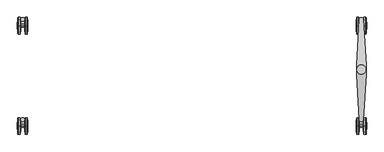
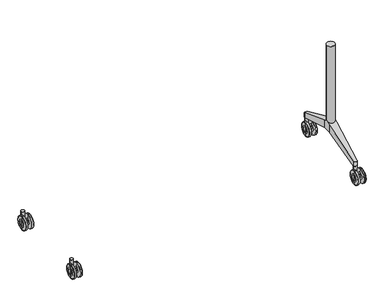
"""IFC4 building model written with IfcOpenShell, lengths in millimetres: furniture geometry."""

from ifc_helpers import new_model, si_unit, point, frame, frame_2d, origin, place, context, project, spatial, polyline, circle_curve, ellipse_curve, trimmed, segment, composite_curve, outline, extrude, source, transform, mapped, element, save
from ifc_brep_helpers import plane_surface, cylinder_surface, revolved_surface, advanced_brep


def furniture_d0fd1eb5(model_context):
    return source(origin(), model_context, "Body", "SolidModel", [
        advanced_brep(
        [(782.7656519, 335.7555331, 26.9613134), (782.7656519, 335.7555331, 40.0000164), (782.7656519, 335.7555331, 53.0387194), (784.897176, 335.7555331, 0.8972162), (783.3247587, 335.7555331, 16.1123581), (783.3247587, 335.7555331, 63.8876748), (784.897176, 335.7555331, 79.1028166), (795.8565603, 335.7555331, 1.43e-05), (785.8918783, 335.7555331, 1.43e-05), (785.8918783, 335.7555331, 80.0000185), (795.8565603, 335.7555331, 80.0000185), (797.7656811, 335.7555331, 20.9999281), (797.7656811, 335.7555331, 59.0001048), (797.7656811, 335.7555331, 32.3463502), (797.7656811, 335.7555331, 47.6536826), (817.6657019, 335.7555331, 32.3463502), (817.6657019, 335.7555331, 47.6536826), (817.6657019, 335.7555331, 20.9999281), (817.6657019, 335.7555331, 59.0001048), (819.5748226, 335.7555331, 1.43e-05), (819.5748226, 335.7555331, 80.0000185), (828.6375243, 335.7555331, 1.43e-05), (828.6375243, 335.7555331, 80.0000185), (832.106818, 335.7555331, 16.1142331), (830.6269288, 335.7555331, 1.7944182), (830.6269288, 335.7555331, 78.2056147), (832.106818, 335.7555331, 63.8857997), (832.665731, 335.7555331, 40.0000164), (832.665731, 335.7555331, 26.9594284), (832.665731, 335.7555331, 53.0406045)],
        [
            (0, 1),
            (1, 2),
            (2, 0, circle_curve(frame((782.7656519, 335.7555331, 40.0000164), z_axis=(-1.0, 0.0, 0.0), x_axis=(0.0, 0.0, 1.0)), 13.038703)),
            (0, 2, circle_curve(frame((782.7656519, 335.7555331, 40.0000164), z_axis=(-1.0, 0.0, 0.0), x_axis=(0.0, 0.0, 1.0)), 13.038703)),
            (3, 4),
            (4, 5, circle_curve(frame((783.3247587, 335.7555331, 40.0000164), z_axis=(1.0, 0.0, 0.0), x_axis=(0.0, 0.0, 1.0)), 23.8876584)),
            (5, 6),
            (6, 3, circle_curve(frame((784.897176, 335.7555331, 40.0000164), z_axis=(-1.0, 0.0, 0.0), x_axis=(0.0, 0.0, 1.0)), 39.1028002)),
            (5, 4, circle_curve(frame((783.3247587, 335.7555331, 40.0000164), z_axis=(1.0, 0.0, 0.0), x_axis=(0.0, 0.0, 1.0)), 23.8876584)),
            (3, 6, circle_curve(frame((784.897176, 335.7555331, 40.0000164), z_axis=(-1.0, 0.0, 0.0), x_axis=(0.0, 0.0, 1.0)), 39.1028002)),
            (7, 8),
            (8, 9, circle_curve(frame((785.8918783, 335.7555331, 40.0000164), z_axis=(1.0, 0.0, 0.0), x_axis=(0.0, 0.0, 1.0)), 40.0000021)),
            (9, 10),
            (10, 7, circle_curve(frame((795.8565603, 335.7555331, 40.0000164), z_axis=(-1.0, 0.0, 0.0), x_axis=(0.0, 0.0, 1.0)), 40.0000021)),
            (9, 8, circle_curve(frame((785.8918783, 335.7555331, 40.0000164), z_axis=(1.0, 0.0, 0.0), x_axis=(0.0, 0.0, 1.0)), 40.0000021)),
            (7, 10, circle_curve(frame((795.8565603, 335.7555331, 40.0000164), z_axis=(-1.0, 0.0, 0.0), x_axis=(0.0, 0.0, 1.0)), 40.0000021)),
            (11, 7),
            (10, 12),
            (12, 11, circle_curve(frame((797.7656811, 335.7555331, 40.0000164), z_axis=(-1.0, 0.0, 0.0), x_axis=(0.0, 0.0, 1.0)), 19.0000883)),
            (11, 12, circle_curve(frame((797.7656811, 335.7555331, 40.0000164), z_axis=(-1.0, 0.0, 0.0), x_axis=(0.0, 0.0, 1.0)), 19.0000883)),
            (13, 11),
            (12, 14),
            (14, 13, circle_curve(frame((797.7656811, 335.7555331, 40.0000164), z_axis=(-1.0, 0.0, 0.0), x_axis=(0.0, 0.0, 1.0)), 7.6536662)),
            (13, 14, circle_curve(frame((797.7656811, 335.7555331, 40.0000164), z_axis=(-1.0, 0.0, 0.0), x_axis=(0.0, 0.0, 1.0)), 7.6536662)),
            (15, 13),
            (14, 16),
            (16, 15, circle_curve(frame((817.6657019, 335.7555331, 40.0000164), z_axis=(-1.0, 0.0, 0.0), x_axis=(0.0, 0.0, 1.0)), 7.6536662)),
            (15, 16, circle_curve(frame((817.6657019, 335.7555331, 40.0000164), z_axis=(-1.0, 0.0, 0.0), x_axis=(0.0, 0.0, 1.0)), 7.6536662)),
            (17, 15),
            (16, 18),
            (18, 17, circle_curve(frame((817.6657019, 335.7555331, 40.0000164), z_axis=(-1.0, 0.0, 0.0), x_axis=(0.0, 0.0, 1.0)), 19.0000883)),
            (17, 18, circle_curve(frame((817.6657019, 335.7555331, 40.0000164), z_axis=(-1.0, 0.0, 0.0), x_axis=(0.0, 0.0, 1.0)), 19.0000883)),
            (19, 17),
            (18, 20),
            (20, 19, circle_curve(frame((819.5748226, 335.7555331, 40.0000164), z_axis=(-1.0, 0.0, 0.0), x_axis=(0.0, 0.0, 1.0)), 40.0000021)),
            (19, 20, circle_curve(frame((819.5748226, 335.7555331, 40.0000164), z_axis=(-1.0, 0.0, 0.0), x_axis=(0.0, 0.0, 1.0)), 40.0000021)),
            (21, 19),
            (20, 22),
            (22, 21, circle_curve(frame((828.6375243, 335.7555331, 40.0000164), z_axis=(-1.0, 0.0, 0.0), x_axis=(0.0, 0.0, 1.0)), 40.0000021)),
            (21, 22, circle_curve(frame((828.6375243, 335.7555331, 40.0000164), z_axis=(-1.0, 0.0, 0.0), x_axis=(0.0, 0.0, 1.0)), 40.0000021)),
            (23, 24),
            (24, 25, circle_curve(frame((830.6269288, 335.7555331, 40.0000164), z_axis=(1.0, 0.0, 0.0), x_axis=(0.0, 0.0, 1.0)), 38.2055982)),
            (25, 26),
            (26, 23, circle_curve(frame((832.106818, 335.7555331, 40.0000164), z_axis=(-1.0, 0.0, 0.0), x_axis=(0.0, 0.0, 1.0)), 23.8857833)),
            (25, 24, circle_curve(frame((830.6269288, 335.7555331, 40.0000164), z_axis=(1.0, 0.0, 0.0), x_axis=(0.0, 0.0, 1.0)), 38.2055982)),
            (23, 26, circle_curve(frame((832.106818, 335.7555331, 40.0000164), z_axis=(-1.0, 0.0, 0.0), x_axis=(0.0, 0.0, 1.0)), 23.8857833)),
            (27, 28),
            (28, 29, circle_curve(frame((832.665731, 335.7555331, 40.0000164), z_axis=(1.0, 0.0, 0.0), x_axis=(0.0, 0.0, 1.0)), 13.0405881)),
            (29, 27),
            (29, 28, circle_curve(frame((832.665731, 335.7555331, 40.0000164), z_axis=(1.0, 0.0, 0.0), x_axis=(0.0, 0.0, 1.0)), 13.0405881)),
            (4, 0, circle_curve(frame((888.3022296, 335.7555331, 26.9613134), z_axis=(0.0, 1.0000000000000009, 0.0), x_axis=(-1.0000000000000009, 0.0, 0.0)), 105.5365777)),
            (2, 5, circle_curve(frame((888.3022296, 335.7555331, 53.0387194), z_axis=(0.0, 1.0000000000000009, 0.0), x_axis=(-1.0000000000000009, 0.0, 0.0)), 105.5365777)),
            (8, 3, circle_curve(frame((785.8918783, 335.7555331, 1.0000143), z_axis=(0.0, 1.0000000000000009, 0.0), x_axis=(-1.0000000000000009, 0.0, 0.0)), 1.0)),
            (6, 9, circle_curve(frame((785.8918783, 335.7555331, 79.0000185), z_axis=(0.0, 1.0000000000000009, 0.0), x_axis=(-1.0000000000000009, 0.0, 0.0)), 1.0)),
            (24, 21, circle_curve(frame((828.6375243, 335.7555331, 2.0000143), z_axis=(0.0, 1.0000000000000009, 0.0), x_axis=(-1.0000000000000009, 0.0, 0.0)), 2.0)),
            (22, 25, circle_curve(frame((828.6375243, 335.7555331, 78.0000185), z_axis=(0.0, 1.0000000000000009, 0.0), x_axis=(-1.0000000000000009, 0.0, 0.0)), 2.0)),
            (28, 23, circle_curve(frame((727.165731, 335.7555331, 26.9594284), z_axis=(0.0, 1.0000000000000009, 0.0), x_axis=(-1.0000000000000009, 0.0, 0.0)), 105.5)),
            (26, 29, circle_curve(frame((727.165731, 335.7555331, 53.0406045), z_axis=(0.0, 1.0000000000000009, 0.0), x_axis=(-1.0000000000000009, 0.0, 0.0)), 105.5)),
        ],
        [
            plane_surface(frame((782.7656519, 335.7555331, 40.0000164), z_axis=(-1.0, 0.0, 0.0), x_axis=(0.0, 0.0, 1.0))),
            revolved_surface(polyline([(783.3247587, 335.7555331, 63.8876748), (784.897176, 335.7555331, 79.1028166)]), (848.4657036, 335.7555331, 40.0000164), (1.0000000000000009, 0.0, 0.0)),
            cylinder_surface(frame((848.4657036, 335.7555331, 40.0000164), z_axis=(1.0000000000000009, 0.0, 0.0), x_axis=(0.0, 0.0, 1.0)), 40.0000021),
            revolved_surface(polyline([(795.8565603, 335.7555331, 80.0000185), (797.7656811, 335.7555331, 59.0001048)]), (848.4657036, 335.7555331, 40.0000164), (1.0000000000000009, 0.0, 0.0)),
            plane_surface(frame((797.7656811, 335.7555331, 40.0000164), z_axis=(1.0, 0.0, 0.0), x_axis=(0.0, 0.0, 1.0))),
            cylinder_surface(frame((848.4657036, 335.7555331, 40.0000164), z_axis=(1.0000000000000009, 0.0, 0.0), x_axis=(0.0, 0.0, 1.0)), 7.6536662),
            plane_surface(frame((817.6657019, 335.7555331, 40.0000164), z_axis=(-1.0, 0.0, 0.0), x_axis=(0.0, 0.0, 1.0))),
            revolved_surface(polyline([(817.6657019, 335.7555331, 59.0001048), (819.5748226, 335.7555331, 80.0000185)]), (848.4657036, 335.7555331, 40.0000164), (1.0000000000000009, 0.0, 0.0)),
            revolved_surface(polyline([(830.6269288, 335.7555331, 78.2056147), (832.106818, 335.7555331, 63.8857997)]), (848.4657036, 335.7555331, 40.0000164), (1.0000000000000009, 0.0, 0.0)),
            plane_surface(frame((832.665731, 335.7555331, 40.0000164), z_axis=(1.0, 0.0, 0.0), x_axis=(0.0, 0.0, 1.0))),
            revolved_surface(trimmed(ellipse_curve(frame((888.3022296, 335.7555331, 53.0387194), z_axis=(0.0, 1.0000000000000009, 0.0), x_axis=(-1.0000000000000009, 0.0, 0.0)), 105.5365777, 105.5365777), [point((782.7656519, 335.7555331, 53.0387194))], [point((783.3247587, 335.7555331, 63.8876748))], True, "CARTESIAN"), (848.4657036, 335.7555331, 40.0000164), (1.0000000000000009, 0.0, 0.0)),
            revolved_surface(trimmed(ellipse_curve(frame((785.8918783, 335.7555331, 79.0000185), z_axis=(0.0, 1.0000000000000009, 0.0), x_axis=(-1.0000000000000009, 0.0, 0.0)), 1.0, 1.0), [point((784.897176, 335.7555331, 79.1028166))], [point((785.8918783, 335.7555331, 80.0000185))], True, "CARTESIAN"), (848.4657036, 335.7555331, 40.0000164), (1.0000000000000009, 0.0, 0.0)),
            revolved_surface(trimmed(ellipse_curve(frame((828.6375243, 335.7555331, 78.0000185), z_axis=(0.0, 1.0000000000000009, 0.0), x_axis=(-1.0000000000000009, 0.0, 0.0)), 2.0, 2.0), [point((828.6375243, 335.7555331, 80.0000185))], [point((830.6269288, 335.7555331, 78.2056147))], True, "CARTESIAN"), (848.4657036, 335.7555331, 40.0000164), (1.0000000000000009, 0.0, 0.0)),
            revolved_surface(trimmed(ellipse_curve(frame((727.165731, 335.7555331, 53.0406045), z_axis=(0.0, 1.0000000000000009, 0.0), x_axis=(-1.0000000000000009, 0.0, 0.0)), 105.5, 105.5), [point((832.106818, 335.7555331, 63.8857997))], [point((832.665731, 335.7555331, 53.0406045))], True, "CARTESIAN"), (848.4657036, 335.7555331, 40.0000164), (1.0000000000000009, 0.0, 0.0)),
        ],
        [
            (0, [[1, 2, 3]]),
            (0, [[-2, -1, 4]]),
            (1, [[5, 6, 7, 8]]),
            (1, [[-7, 9, -5, 10]]),
            (2, [[11, 12, 13, 14]]),
            (2, [[-13, 15, -11, 16]]),
            (3, [[17, -14, 18, 19]]),
            (3, [[-18, -16, -17, 20]]),
            (4, [[21, -19, 22, 23]]),
            (4, [[-22, -20, -21, 24]]),
            (5, [[25, -23, 26, 27]]),
            (5, [[-26, -24, -25, 28]]),
            (6, [[29, -27, 30, 31]]),
            (6, [[-30, -28, -29, 32]]),
            (7, [[33, -31, 34, 35]]),
            (7, [[-34, -32, -33, 36]]),
            (2, [[37, -35, 38, 39]]),
            (2, [[-38, -36, -37, 40]]),
            (8, [[41, 42, 43, 44]]),
            (8, [[-43, 45, -41, 46]]),
            (9, [[47, 48, 49]]),
            (9, [[-49, 50, -47]]),
            (10, [[51, -3, 52, -6]]),
            (10, [[-52, -4, -51, -9]]),
            (11, [[53, -8, 54, -12]]),
            (11, [[-54, -10, -53, -15]]),
            (12, [[55, -39, 56, -42]]),
            (12, [[-56, -40, -55, -45]]),
            (13, [[57, -44, 58, -48]]),
            (13, [[-58, -46, -57, -50]]),
        ],
    ),
        extrude(outline(composite_curve([segment(trimmed(circle_curve(frame_2d((807.8514741, 365.8520513)), 9.5), [point((817.3514741, 365.8520513))], [point((798.3514741, 365.8520513))], False, "CARTESIAN"), True, "CONTINUOUS"), segment(trimmed(circle_curve(frame_2d((807.8514741, 365.8520513)), 9.5), [point((798.3514741, 365.8520513))], [point((817.3514741, 365.8520513))], False, "CARTESIAN"), True, "CONTINUOUS")], self_intersect=False)), frame((0.0, 0.0, 50.0000143), z_axis=(0.0, 0.0, 1.0), x_axis=(1.0, 0.0, 0.0)), (0.0, 0.0, 1.0), 39.0),
        advanced_brep(
        [(782.7656519, -144.048844, 26.9613134), (782.7656519, -144.048844, 40.0000164), (782.7656519, -144.048844, 53.0387194), (784.897176, -144.048844, 0.8972162), (783.3247587, -144.048844, 16.1123581), (783.3247587, -144.048844, 63.8876748), (784.897176, -144.048844, 79.1028166), (795.8565603, -144.048844, 1.43e-05), (785.8918783, -144.048844, 1.43e-05), (785.8918783, -144.048844, 80.0000185), (795.8565603, -144.048844, 80.0000185), (797.7656811, -144.048844, 20.9999281), (797.7656811, -144.048844, 59.0001048), (797.7656811, -144.048844, 32.3463502), (797.7656811, -144.048844, 47.6536826), (817.6657019, -144.048844, 32.3463502), (817.6657019, -144.048844, 47.6536826), (817.6657019, -144.048844, 20.9999281), (817.6657019, -144.048844, 59.0001048), (819.5748226, -144.048844, 1.43e-05), (819.5748226, -144.048844, 80.0000185), (828.6375243, -144.048844, 1.43e-05), (828.6375243, -144.048844, 80.0000185), (832.106818, -144.048844, 16.1142331), (830.6269288, -144.048844, 1.7944182), (830.6269288, -144.048844, 78.2056147), (832.106818, -144.048844, 63.8857997), (832.665731, -144.048844, 40.0000164), (832.665731, -144.048844, 26.9594284), (832.665731, -144.048844, 53.0406045)],
        [
            (0, 1),
            (1, 2),
            (2, 0, circle_curve(frame((782.7656519, -144.048844, 40.0000164), z_axis=(-1.0, 0.0, 0.0), x_axis=(0.0, 0.0, 1.0)), 13.038703)),
            (0, 2, circle_curve(frame((782.7656519, -144.048844, 40.0000164), z_axis=(-1.0, 0.0, 0.0), x_axis=(0.0, 0.0, 1.0)), 13.038703)),
            (3, 4),
            (4, 5, circle_curve(frame((783.3247587, -144.048844, 40.0000164), z_axis=(1.0, 0.0, 0.0), x_axis=(0.0, 0.0, 1.0)), 23.8876584)),
            (5, 6),
            (6, 3, circle_curve(frame((784.897176, -144.048844, 40.0000164), z_axis=(-1.0, 0.0, 0.0), x_axis=(0.0, 0.0, 1.0)), 39.1028002)),
            (5, 4, circle_curve(frame((783.3247587, -144.048844, 40.0000164), z_axis=(1.0, 0.0, 0.0), x_axis=(0.0, 0.0, 1.0)), 23.8876584)),
            (3, 6, circle_curve(frame((784.897176, -144.048844, 40.0000164), z_axis=(-1.0, 0.0, 0.0), x_axis=(0.0, 0.0, 1.0)), 39.1028002)),
            (7, 8),
            (8, 9, circle_curve(frame((785.8918783, -144.048844, 40.0000164), z_axis=(1.0, 0.0, 0.0), x_axis=(0.0, 0.0, 1.0)), 40.0000021)),
            (9, 10),
            (10, 7, circle_curve(frame((795.8565603, -144.048844, 40.0000164), z_axis=(-1.0, 0.0, 0.0), x_axis=(0.0, 0.0, 1.0)), 40.0000021)),
            (9, 8, circle_curve(frame((785.8918783, -144.048844, 40.0000164), z_axis=(1.0, 0.0, 0.0), x_axis=(0.0, 0.0, 1.0)), 40.0000021)),
            (7, 10, circle_curve(frame((795.8565603, -144.048844, 40.0000164), z_axis=(-1.0, 0.0, 0.0), x_axis=(0.0, 0.0, 1.0)), 40.0000021)),
            (11, 7),
            (10, 12),
            (12, 11, circle_curve(frame((797.7656811, -144.048844, 40.0000164), z_axis=(-1.0, 0.0, 0.0), x_axis=(0.0, 0.0, 1.0)), 19.0000883)),
            (11, 12, circle_curve(frame((797.7656811, -144.048844, 40.0000164), z_axis=(-1.0, 0.0, 0.0), x_axis=(0.0, 0.0, 1.0)), 19.0000883)),
            (13, 11),
            (12, 14),
            (14, 13, circle_curve(frame((797.7656811, -144.048844, 40.0000164), z_axis=(-1.0, 0.0, 0.0), x_axis=(0.0, 0.0, 1.0)), 7.6536662)),
            (13, 14, circle_curve(frame((797.7656811, -144.048844, 40.0000164), z_axis=(-1.0, 0.0, 0.0), x_axis=(0.0, 0.0, 1.0)), 7.6536662)),
            (15, 13),
            (14, 16),
            (16, 15, circle_curve(frame((817.6657019, -144.048844, 40.0000164), z_axis=(-1.0, 0.0, 0.0), x_axis=(0.0, 0.0, 1.0)), 7.6536662)),
            (15, 16, circle_curve(frame((817.6657019, -144.048844, 40.0000164), z_axis=(-1.0, 0.0, 0.0), x_axis=(0.0, 0.0, 1.0)), 7.6536662)),
            (17, 15),
            (16, 18),
            (18, 17, circle_curve(frame((817.6657019, -144.048844, 40.0000164), z_axis=(-1.0, 0.0, 0.0), x_axis=(0.0, 0.0, 1.0)), 19.0000883)),
            (17, 18, circle_curve(frame((817.6657019, -144.048844, 40.0000164), z_axis=(-1.0, 0.0, 0.0), x_axis=(0.0, 0.0, 1.0)), 19.0000883)),
            (19, 17),
            (18, 20),
            (20, 19, circle_curve(frame((819.5748226, -144.048844, 40.0000164), z_axis=(-1.0, 0.0, 0.0), x_axis=(0.0, 0.0, 1.0)), 40.0000021)),
            (19, 20, circle_curve(frame((819.5748226, -144.048844, 40.0000164), z_axis=(-1.0, 0.0, 0.0), x_axis=(0.0, 0.0, 1.0)), 40.0000021)),
            (21, 19),
            (20, 22),
            (22, 21, circle_curve(frame((828.6375243, -144.048844, 40.0000164), z_axis=(-1.0, 0.0, 0.0), x_axis=(0.0, 0.0, 1.0)), 40.0000021)),
            (21, 22, circle_curve(frame((828.6375243, -144.048844, 40.0000164), z_axis=(-1.0, 0.0, 0.0), x_axis=(0.0, 0.0, 1.0)), 40.0000021)),
            (23, 24),
            (24, 25, circle_curve(frame((830.6269288, -144.048844, 40.0000164), z_axis=(1.0, 0.0, 0.0), x_axis=(0.0, 0.0, 1.0)), 38.2055982)),
            (25, 26),
            (26, 23, circle_curve(frame((832.106818, -144.048844, 40.0000164), z_axis=(-1.0, 0.0, 0.0), x_axis=(0.0, 0.0, 1.0)), 23.8857833)),
            (25, 24, circle_curve(frame((830.6269288, -144.048844, 40.0000164), z_axis=(1.0, 0.0, 0.0), x_axis=(0.0, 0.0, 1.0)), 38.2055982)),
            (23, 26, circle_curve(frame((832.106818, -144.048844, 40.0000164), z_axis=(-1.0, 0.0, 0.0), x_axis=(0.0, 0.0, 1.0)), 23.8857833)),
            (27, 28),
            (28, 29, circle_curve(frame((832.665731, -144.048844, 40.0000164), z_axis=(1.0, 0.0, 0.0), x_axis=(0.0, 0.0, 1.0)), 13.0405881)),
            (29, 27),
            (29, 28, circle_curve(frame((832.665731, -144.048844, 40.0000164), z_axis=(1.0, 0.0, 0.0), x_axis=(0.0, 0.0, 1.0)), 13.0405881)),
            (4, 0, circle_curve(frame((888.3022296, -144.048844, 26.9613134), z_axis=(0.0, 1.0, 0.0), x_axis=(-1.0, 0.0, 0.0)), 105.5365777)),
            (2, 5, circle_curve(frame((888.3022296, -144.048844, 53.0387194), z_axis=(0.0, 1.0, 0.0), x_axis=(-1.0, 0.0, 0.0)), 105.5365777)),
            (8, 3, circle_curve(frame((785.8918783, -144.048844, 1.0000143), z_axis=(0.0, 1.0, 0.0), x_axis=(-1.0, 0.0, 0.0)), 1.0)),
            (6, 9, circle_curve(frame((785.8918783, -144.048844, 79.0000185), z_axis=(0.0, 1.0, 0.0), x_axis=(-1.0, 0.0, 0.0)), 1.0)),
            (24, 21, circle_curve(frame((828.6375243, -144.048844, 2.0000143), z_axis=(0.0, 1.0, 0.0), x_axis=(-1.0, 0.0, 0.0)), 2.0)),
            (22, 25, circle_curve(frame((828.6375243, -144.048844, 78.0000185), z_axis=(0.0, 1.0, 0.0), x_axis=(-1.0, 0.0, 0.0)), 2.0)),
            (28, 23, circle_curve(frame((727.165731, -144.048844, 26.9594284), z_axis=(0.0, 1.0, 0.0), x_axis=(-1.0, 0.0, 0.0)), 105.5)),
            (26, 29, circle_curve(frame((727.165731, -144.048844, 53.0406045), z_axis=(0.0, 1.0, 0.0), x_axis=(-1.0, 0.0, 0.0)), 105.5)),
        ],
        [
            plane_surface(frame((782.7656519, -144.048844, 40.0000164), z_axis=(-1.0, 0.0, 0.0), x_axis=(0.0, 0.0, 1.0))),
            revolved_surface(polyline([(783.3247587, -144.048844, 63.8876748), (784.897176, -144.048844, 79.1028166)]), (848.4657036, -144.048844, 40.0000164), (1.0, 0.0, 0.0)),
            cylinder_surface(frame((848.4657036, -144.048844, 40.0000164), z_axis=(1.0, 0.0, 0.0), x_axis=(0.0, 0.0, 1.0)), 40.0000021),
            revolved_surface(polyline([(795.8565603, -144.048844, 80.0000185), (797.7656811, -144.048844, 59.0001048)]), (848.4657036, -144.048844, 40.0000164), (1.0, 0.0, 0.0)),
            plane_surface(frame((797.7656811, -144.048844, 40.0000164), z_axis=(1.0, 0.0, 0.0), x_axis=(0.0, 0.0, 1.0))),
            cylinder_surface(frame((848.4657036, -144.048844, 40.0000164), z_axis=(1.0, 0.0, 0.0), x_axis=(0.0, 0.0, 1.0)), 7.6536662),
            plane_surface(frame((817.6657019, -144.048844, 40.0000164), z_axis=(-1.0, 0.0, 0.0), x_axis=(0.0, 0.0, 1.0))),
            revolved_surface(polyline([(817.6657019, -144.048844, 59.0001048), (819.5748226, -144.048844, 80.0000185)]), (848.4657036, -144.048844, 40.0000164), (1.0, 0.0, 0.0)),
            revolved_surface(polyline([(830.6269288, -144.048844, 78.2056147), (832.106818, -144.048844, 63.8857997)]), (848.4657036, -144.048844, 40.0000164), (1.0, 0.0, 0.0)),
            plane_surface(frame((832.665731, -144.048844, 40.0000164), z_axis=(1.0, 0.0, 0.0), x_axis=(0.0, 0.0, 1.0))),
            revolved_surface(trimmed(ellipse_curve(frame((888.3022296, -144.048844, 53.0387194), z_axis=(0.0, 1.0, 0.0), x_axis=(-1.0, 0.0, 0.0)), 105.5365777, 105.5365777), [point((782.7656519, -144.048844, 53.0387194))], [point((783.3247587, -144.048844, 63.8876748))], True, "CARTESIAN"), (848.4657036, -144.048844, 40.0000164), (1.0, 0.0, 0.0)),
            revolved_surface(trimmed(ellipse_curve(frame((785.8918783, -144.048844, 79.0000185), z_axis=(0.0, 1.0, 0.0), x_axis=(-1.0, 0.0, 0.0)), 1.0, 1.0), [point((784.897176, -144.048844, 79.1028166))], [point((785.8918783, -144.048844, 80.0000185))], True, "CARTESIAN"), (848.4657036, -144.048844, 40.0000164), (1.0, 0.0, 0.0)),
            revolved_surface(trimmed(ellipse_curve(frame((828.6375243, -144.048844, 78.0000185), z_axis=(0.0, 1.0, 0.0), x_axis=(-1.0, 0.0, 0.0)), 2.0, 2.0), [point((828.6375243, -144.048844, 80.0000185))], [point((830.6269288, -144.048844, 78.2056147))], True, "CARTESIAN"), (848.4657036, -144.048844, 40.0000164), (1.0, 0.0, 0.0)),
            revolved_surface(trimmed(ellipse_curve(frame((727.165731, -144.048844, 53.0406045), z_axis=(0.0, 1.0, 0.0), x_axis=(-1.0, 0.0, 0.0)), 105.5, 105.5), [point((832.106818, -144.048844, 63.8857997))], [point((832.665731, -144.048844, 53.0406045))], True, "CARTESIAN"), (848.4657036, -144.048844, 40.0000164), (1.0, 0.0, 0.0)),
        ],
        [
            (0, [[1, 2, 3]]),
            (0, [[-2, -1, 4]]),
            (1, [[5, 6, 7, 8]]),
            (1, [[-7, 9, -5, 10]]),
            (2, [[11, 12, 13, 14]]),
            (2, [[-13, 15, -11, 16]]),
            (3, [[17, -14, 18, 19]]),
            (3, [[-18, -16, -17, 20]]),
            (4, [[21, -19, 22, 23]]),
            (4, [[-22, -20, -21, 24]]),
            (5, [[25, -23, 26, 27]]),
            (5, [[-26, -24, -25, 28]]),
            (6, [[29, -27, 30, 31]]),
            (6, [[-30, -28, -29, 32]]),
            (7, [[33, -31, 34, 35]]),
            (7, [[-34, -32, -33, 36]]),
            (2, [[37, -35, 38, 39]]),
            (2, [[-38, -36, -37, 40]]),
            (8, [[41, 42, 43, 44]]),
            (8, [[-43, 45, -41, 46]]),
            (9, [[47, 48, 49]]),
            (9, [[-49, 50, -47]]),
            (10, [[51, -3, 52, -6]]),
            (10, [[-52, -4, -51, -9]]),
            (11, [[53, -8, 54, -12]]),
            (11, [[-54, -10, -53, -15]]),
            (12, [[55, -39, 56, -42]]),
            (12, [[-56, -40, -55, -45]]),
            (13, [[57, -44, 58, -48]]),
            (13, [[-58, -46, -57, -50]]),
        ],
    ),
        extrude(outline(composite_curve([segment(trimmed(circle_curve(frame_2d((807.8514741, -113.9523258)), 9.5), [point((817.3514741, -113.9523258))], [point((798.3514741, -113.9523258))], False, "CARTESIAN"), True, "CONTINUOUS"), segment(trimmed(circle_curve(frame_2d((807.8514741, -113.9523258)), 9.5), [point((798.3514741, -113.9523258))], [point((817.3514741, -113.9523258))], False, "CARTESIAN"), True, "CONTINUOUS")], self_intersect=False)), frame((0.0, 0.0, 50.0000143), z_axis=(0.0, 0.0, 1.0), x_axis=(1.0, 0.0, 0.0)), (0.0, 0.0, 1.0), 39.0),
        advanced_brep(
        [(785.1657234, 148.4511551, 210.360006), (785.1657234, 148.4511551, 165.9000199), (785.1657234, 125.9511544, 165.9000199), (785.1657234, 103.4511538, 165.9000199), (785.1657234, 103.4511538, 210.360006), (785.1657234, 125.9511544, 219.9000124), (830.1657383, 148.4511551, 165.9000199), (830.1657383, 148.4511551, 210.360006), (830.1657383, 125.9511544, 219.9000124), (830.1657383, 103.4511538, 210.360006), (830.1657383, 103.4511538, 165.9000199), (830.1657383, 125.9511544, 165.9000199), (797.627182, -113.0675149, 88.8098467), (817.7042073, -113.0675149, 88.8098467), (797.6821683, -114.0242798, 118.1504308), (817.6492204, -114.0242831, 118.1504294), (817.6492204, -114.0242831, 88.8098467), (797.6821683, -114.0242798, 88.8098467), (797.627182, 364.9698238, 88.8098467), (797.6821683, 365.9265887, 88.8098467), (817.6492204, 365.926592, 88.8098467), (817.7042073, 364.9698238, 88.8098467), (817.6492204, 365.926592, 118.1504294), (797.6821683, 365.9265887, 118.1504308)],
        [
            (0, 1),
            (1, 2),
            (2, 3),
            (3, 4),
            (4, 5),
            (5, 0),
            (6, 7),
            (7, 8),
            (8, 9),
            (9, 10),
            (10, 11),
            (11, 6),
            (2, 11),
            (10, 3),
            (1, 6),
            (12, 3),
            (10, 13),
            (13, 12),
            (14, 15, ellipse_curve(frame((807.6656945, -113.4505156, 118.3937069), z_axis=(0.0, -0.39036065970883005, 0.9206620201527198), x_axis=(0.0, -0.9206620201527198, -0.3903606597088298)), 10.8617492, 10.0)),
            (15, 9),
            (8, 5),
            (4, 14),
            (13, 16),
            (16, 17, circle_curve(frame((807.6656945, -113.4505156, 88.8098467), z_axis=(0.0, 0.0, -1.0), x_axis=(-1.0, 0.0, 0.0)), 10.0)),
            (17, 12),
            (18, 19),
            (19, 20, circle_curve(frame((807.6656945, 365.3528245, 88.8098467), z_axis=(0.0, 0.0, -1.0), x_axis=(-1.0, 0.0, 0.0)), 10.0)),
            (20, 21),
            (21, 18),
            (7, 22),
            (22, 23, ellipse_curve(frame((807.6656945, 365.3528245, 118.3937069), z_axis=(0.0, 0.39036065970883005, 0.9206620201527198), x_axis=(0.0, 0.9206620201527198, -0.3903606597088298)), 10.8617492, 10.0)),
            (23, 0),
            (21, 6),
            (1, 18),
            (23, 19),
            (20, 22),
            (17, 14),
            (16, 15),
        ],
        [
            plane_surface(frame((785.1657234, 148.4511551, 210.360006), z_axis=(-1.0, 0.0, 0.0), x_axis=(0.0, -0.9206619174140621, 0.3903609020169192))),
            plane_surface(frame((830.1657383, 148.4511551, 210.360006), z_axis=(1.0, 0.0, 0.0), x_axis=(0.0, 0.9206619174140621, -0.3903609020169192))),
            plane_surface(frame((785.1657234, 103.4511538, 165.9000199), z_axis=(0.0, 0.0, -1.0), x_axis=(1.0, 0.0, 0.0))),
            plane_surface(frame((785.1657234, 125.9511544, 165.9000199), z_axis=(0.0, 0.0, -1.0), x_axis=(1.0, 0.0, 0.0))),
            plane_surface(frame((785.1657234, -113.0675149, 88.8098467), z_axis=(0.0, 0.33541814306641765, -0.9420693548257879), x_axis=(1.0, 0.0, 0.0))),
            plane_surface(frame((785.1657234, 103.4511538, 210.360006), z_axis=(0.0, -0.39036065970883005, 0.9206620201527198), x_axis=(1.0, 0.0, 0.0))),
            plane_surface(frame((785.1657234, -124.5346363, 88.8098467), z_axis=(0.0, 0.0, -1.0), x_axis=(1.0, 0.0, 0.0))),
            plane_surface(frame((785.1657234, 364.9698238, 88.8098467), z_axis=(0.0, 0.0, -1.0), x_axis=(1.0, 0.0, 0.0))),
            plane_surface(frame((785.1657234, 376.4369452, 113.6940401), z_axis=(0.0, 0.39036065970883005, 0.9206620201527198), x_axis=(1.0, 0.0, 0.0))),
            plane_surface(frame((785.1657234, 148.4511551, 165.9000199), z_axis=(0.0, -0.33541814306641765, -0.9420693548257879), x_axis=(1.0, 0.0, 0.0))),
            plane_surface(frame((797.6821683, 365.9265887, 234.8098558), z_axis=(-0.9983526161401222, 0.0573764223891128, 0.0), x_axis=(0.0, 0.0, -1.0))),
            plane_surface(frame((830.1478455, 148.4511551, 234.8098558), z_axis=(0.9983525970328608, 0.0573767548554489, 0.0), x_axis=(0.0, 0.0, -1.0))),
            cylinder_surface(frame((807.6656945, 365.3528245, 75.8098498), z_axis=(0.0, 0.0, -1.0), x_axis=(-1.0, 0.0, 0.0)), 10.0),
            plane_surface(frame((785.1836161, 103.4511538, 234.8098558), z_axis=(-0.9983526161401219, -0.05737642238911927, 0.0), x_axis=(0.0, 0.0, -1.0))),
            cylinder_surface(frame((807.6656945, -113.4505156, -14.1901527), z_axis=(0.0, 0.0, -1.0), x_axis=(-1.0, 0.0, 0.0)), 10.0),
            plane_surface(frame((817.6492204, -114.0242831, 234.8098558), z_axis=(0.9983525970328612, -0.05737675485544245, 0.0), x_axis=(0.0, 0.0, -1.0))),
        ],
        [
            (0, [[1, 2, 3, 4, 5, 6]]),
            (1, [[7, 8, 9, 10, 11, 12]]),
            (2, [[13, -11, 14, -3]]),
            (3, [[15, -12, -13, -2]]),
            (4, [[16, -14, 17, 18]]),
            (5, [[19, 20, -9, 21, -5, 22]]),
            (6, [[23, 24, 25, -18]]),
            (7, [[26, 27, 28, 29]]),
            (8, [[-6, -21, -8, 30, 31, 32]]),
            (9, [[33, -15, 34, -29]]),
            (10, [[-26, -34, -1, -32, 35]]),
            (11, [[-30, -7, -33, -28, 36]]),
            (12, [[-31, -36, -27, -35]]),
            (13, [[-22, -4, -16, -25, 37]]),
            (14, [[-24, 38, -19, -37]]),
            (15, [[-23, -17, -10, -20, -38]]),
        ],
    ),
        extrude(outline(composite_curve([segment(trimmed(circle_curve(frame_2d((807.6657309, 125.9511544)), 22.0), [point((829.6657309, 125.9511544))], [point((785.6657309, 125.9511544))], False, "CARTESIAN"), True, "CONTINUOUS"), segment(trimmed(circle_curve(frame_2d((807.6657309, 125.9511544)), 22.0), [point((785.6657309, 125.9511544))], [point((829.6657309, 125.9511544))], False, "CARTESIAN"), True, "CONTINUOUS")], self_intersect=False)), frame((0.0, 0.0, 165.9000199), z_axis=(0.0, 0.0, 1.0), x_axis=(1.0, 0.0, 0.0)), (0.0, 0.0, 1.0), 509.3499944),
        advanced_brep(
        [(-782.7656519, 335.7555331, 26.9613134), (-782.7656519, 335.7555331, 53.0387194), (-782.7656519, 335.7555331, 40.0000164), (-784.897176, 335.7555331, 0.8972162), (-784.897176, 335.7555331, 79.1028166), (-783.3247587, 335.7555331, 63.8876748), (-783.3247587, 335.7555331, 16.1123581), (-795.8565603, 335.7555331, 1.43e-05), (-795.8565603, 335.7555331, 80.0000185), (-785.8918783, 335.7555331, 80.0000185), (-785.8918783, 335.7555331, 1.43e-05), (-797.7656811, 335.7555331, 20.9999281), (-797.7656811, 335.7555331, 59.0001048), (-797.7656811, 335.7555331, 32.3463502), (-797.7656811, 335.7555331, 47.6536826), (-817.6657019, 335.7555331, 32.3463502), (-817.6657019, 335.7555331, 47.6536826), (-817.6657019, 335.7555331, 20.9999281), (-817.6657019, 335.7555331, 59.0001048), (-819.5748226, 335.7555331, 1.43e-05), (-819.5748226, 335.7555331, 80.0000185), (-828.6375243, 335.7555331, 1.43e-05), (-828.6375243, 335.7555331, 80.0000185), (-832.106818, 335.7555331, 16.1142331), (-832.106818, 335.7555331, 63.8857997), (-830.6269288, 335.7555331, 78.2056147), (-830.6269288, 335.7555331, 1.7944182), (-832.665731, 335.7555331, 40.0000164), (-832.665731, 335.7555331, 53.0406045), (-832.665731, 335.7555331, 26.9594284)],
        [
            (0, 1, circle_curve(frame((-782.7656519, 335.7555331, 40.0000164), z_axis=(1.0, 0.0, 0.0), x_axis=(0.0, 0.0, 1.0)), 13.038703)),
            (1, 2),
            (2, 0),
            (1, 0, circle_curve(frame((-782.7656519, 335.7555331, 40.0000164), z_axis=(1.0, 0.0, 0.0), x_axis=(0.0, 0.0, 1.0)), 13.038703)),
            (3, 4, circle_curve(frame((-784.897176, 335.7555331, 40.0000164), z_axis=(1.0, 0.0, 0.0), x_axis=(0.0, 0.0, 1.0)), 39.1028002)),
            (4, 5),
            (5, 6, circle_curve(frame((-783.3247587, 335.7555331, 40.0000164), z_axis=(-1.0, 0.0, 0.0), x_axis=(0.0, 0.0, 1.0)), 23.8876584)),
            (6, 3),
            (4, 3, circle_curve(frame((-784.897176, 335.7555331, 40.0000164), z_axis=(1.0, 0.0, 0.0), x_axis=(0.0, 0.0, 1.0)), 39.1028002)),
            (6, 5, circle_curve(frame((-783.3247587, 335.7555331, 40.0000164), z_axis=(-1.0, 0.0, 0.0), x_axis=(0.0, 0.0, 1.0)), 23.8876584)),
            (7, 8, circle_curve(frame((-795.8565603, 335.7555331, 40.0000164), z_axis=(1.0, 0.0, 0.0), x_axis=(0.0, 0.0, 1.0)), 40.0000021)),
            (8, 9),
            (9, 10, circle_curve(frame((-785.8918783, 335.7555331, 40.0000164), z_axis=(-1.0, 0.0, 0.0), x_axis=(0.0, 0.0, 1.0)), 40.0000021)),
            (10, 7),
            (8, 7, circle_curve(frame((-795.8565603, 335.7555331, 40.0000164), z_axis=(1.0, 0.0, 0.0), x_axis=(0.0, 0.0, 1.0)), 40.0000021)),
            (10, 9, circle_curve(frame((-785.8918783, 335.7555331, 40.0000164), z_axis=(-1.0, 0.0, 0.0), x_axis=(0.0, 0.0, 1.0)), 40.0000021)),
            (11, 12, circle_curve(frame((-797.7656811, 335.7555331, 40.0000164), z_axis=(1.0, 0.0, 0.0), x_axis=(0.0, 0.0, 1.0)), 19.0000883)),
            (12, 8),
            (7, 11),
            (12, 11, circle_curve(frame((-797.7656811, 335.7555331, 40.0000164), z_axis=(1.0, 0.0, 0.0), x_axis=(0.0, 0.0, 1.0)), 19.0000883)),
            (13, 14, circle_curve(frame((-797.7656811, 335.7555331, 40.0000164), z_axis=(1.0, 0.0, 0.0), x_axis=(0.0, 0.0, 1.0)), 7.6536662)),
            (14, 12),
            (11, 13),
            (14, 13, circle_curve(frame((-797.7656811, 335.7555331, 40.0000164), z_axis=(1.0, 0.0, 0.0), x_axis=(0.0, 0.0, 1.0)), 7.6536662)),
            (15, 16, circle_curve(frame((-817.6657019, 335.7555331, 40.0000164), z_axis=(1.0, 0.0, 0.0), x_axis=(0.0, 0.0, 1.0)), 7.6536662)),
            (16, 14),
            (13, 15),
            (16, 15, circle_curve(frame((-817.6657019, 335.7555331, 40.0000164), z_axis=(1.0, 0.0, 0.0), x_axis=(0.0, 0.0, 1.0)), 7.6536662)),
            (17, 18, circle_curve(frame((-817.6657019, 335.7555331, 40.0000164), z_axis=(1.0, 0.0, 0.0), x_axis=(0.0, 0.0, 1.0)), 19.0000883)),
            (18, 16),
            (15, 17),
            (18, 17, circle_curve(frame((-817.6657019, 335.7555331, 40.0000164), z_axis=(1.0, 0.0, 0.0), x_axis=(0.0, 0.0, 1.0)), 19.0000883)),
            (19, 20, circle_curve(frame((-819.5748226, 335.7555331, 40.0000164), z_axis=(1.0, 0.0, 0.0), x_axis=(0.0, 0.0, 1.0)), 40.0000021)),
            (20, 18),
            (17, 19),
            (20, 19, circle_curve(frame((-819.5748226, 335.7555331, 40.0000164), z_axis=(1.0, 0.0, 0.0), x_axis=(0.0, 0.0, 1.0)), 40.0000021)),
            (21, 22, circle_curve(frame((-828.6375243, 335.7555331, 40.0000164), z_axis=(1.0, 0.0, 0.0), x_axis=(0.0, 0.0, 1.0)), 40.0000021)),
            (22, 20),
            (19, 21),
            (22, 21, circle_curve(frame((-828.6375243, 335.7555331, 40.0000164), z_axis=(1.0, 0.0, 0.0), x_axis=(0.0, 0.0, 1.0)), 40.0000021)),
            (23, 24, circle_curve(frame((-832.106818, 335.7555331, 40.0000164), z_axis=(1.0, 0.0, 0.0), x_axis=(0.0, 0.0, 1.0)), 23.8857833)),
            (24, 25),
            (25, 26, circle_curve(frame((-830.6269288, 335.7555331, 40.0000164), z_axis=(-1.0, 0.0, 0.0), x_axis=(0.0, 0.0, 1.0)), 38.2055982)),
            (26, 23),
            (24, 23, circle_curve(frame((-832.106818, 335.7555331, 40.0000164), z_axis=(1.0, 0.0, 0.0), x_axis=(0.0, 0.0, 1.0)), 23.8857833)),
            (26, 25, circle_curve(frame((-830.6269288, 335.7555331, 40.0000164), z_axis=(-1.0, 0.0, 0.0), x_axis=(0.0, 0.0, 1.0)), 38.2055982)),
            (27, 28),
            (28, 29, circle_curve(frame((-832.665731, 335.7555331, 40.0000164), z_axis=(-1.0, 0.0, 0.0), x_axis=(0.0, 0.0, 1.0)), 13.0405881)),
            (29, 27),
            (29, 28, circle_curve(frame((-832.665731, 335.7555331, 40.0000164), z_axis=(-1.0, 0.0, 0.0), x_axis=(0.0, 0.0, 1.0)), 13.0405881)),
            (5, 1, circle_curve(frame((-888.3022296, 335.7555331, 53.0387194), z_axis=(0.0, 1.0000000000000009, 0.0), x_axis=(1.0000000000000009, 0.0, 0.0)), 105.5365777)),
            (0, 6, circle_curve(frame((-888.3022296, 335.7555331, 26.9613134), z_axis=(0.0, 1.0000000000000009, 0.0), x_axis=(1.0000000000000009, 0.0, 0.0)), 105.5365777)),
            (9, 4, circle_curve(frame((-785.8918783, 335.7555331, 79.0000185), z_axis=(0.0, 1.0000000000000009, 0.0), x_axis=(1.0000000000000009, 0.0, 0.0)), 1.0)),
            (3, 10, circle_curve(frame((-785.8918783, 335.7555331, 1.0000143), z_axis=(0.0, 1.0000000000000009, 0.0), x_axis=(1.0000000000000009, 0.0, 0.0)), 1.0)),
            (25, 22, circle_curve(frame((-828.6375243, 335.7555331, 78.0000185), z_axis=(0.0, 1.0000000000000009, 0.0), x_axis=(1.0000000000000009, 0.0, 0.0)), 2.0)),
            (21, 26, circle_curve(frame((-828.6375243, 335.7555331, 2.0000143), z_axis=(0.0, 1.0000000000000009, 0.0), x_axis=(1.0000000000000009, 0.0, 0.0)), 2.0)),
            (28, 24, circle_curve(frame((-727.165731, 335.7555331, 53.0406045), z_axis=(0.0, 1.0000000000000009, 0.0), x_axis=(1.0000000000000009, 0.0, 0.0)), 105.5)),
            (23, 29, circle_curve(frame((-727.165731, 335.7555331, 26.9594284), z_axis=(0.0, 1.0000000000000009, 0.0), x_axis=(1.0000000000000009, 0.0, 0.0)), 105.5)),
        ],
        [
            plane_surface(frame((-782.7656519, 335.7555331, 40.0000164), z_axis=(1.0, 0.0, 0.0), x_axis=(0.0, 0.0, 1.0))),
            revolved_surface(polyline([(-783.3247587, 335.7555331, 63.8876748), (-784.897176, 335.7555331, 79.1028166)]), (-848.4657036, 335.7555331, 40.0000164), (-1.0000000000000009, 0.0, 0.0)),
            cylinder_surface(frame((-848.4657036, 335.7555331, 40.0000164), z_axis=(-1.0000000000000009, 0.0, 0.0), x_axis=(0.0, 0.0, 1.0)), 40.0000021),
            revolved_surface(polyline([(-795.8565603, 335.7555331, 80.0000185), (-797.7656811, 335.7555331, 59.0001048)]), (-848.4657036, 335.7555331, 40.0000164), (-1.0000000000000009, 0.0, 0.0)),
            plane_surface(frame((-797.7656811, 335.7555331, 40.0000164), z_axis=(-1.0, 0.0, 0.0), x_axis=(0.0, 0.0, 1.0))),
            cylinder_surface(frame((-848.4657036, 335.7555331, 40.0000164), z_axis=(-1.0000000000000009, 0.0, 0.0), x_axis=(0.0, 0.0, 1.0)), 7.6536662),
            plane_surface(frame((-817.6657019, 335.7555331, 40.0000164), z_axis=(1.0, 0.0, 0.0), x_axis=(0.0, 0.0, 1.0))),
            revolved_surface(polyline([(-817.6657019, 335.7555331, 59.0001048), (-819.5748226, 335.7555331, 80.0000185)]), (-848.4657036, 335.7555331, 40.0000164), (-1.0000000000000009, 0.0, 0.0)),
            revolved_surface(polyline([(-830.6269288, 335.7555331, 78.2056147), (-832.106818, 335.7555331, 63.8857997)]), (-848.4657036, 335.7555331, 40.0000164), (-1.0000000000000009, 0.0, 0.0)),
            plane_surface(frame((-832.665731, 335.7555331, 40.0000164), z_axis=(-1.0, 0.0, 0.0), x_axis=(0.0, 0.0, 1.0))),
            revolved_surface(trimmed(ellipse_curve(frame((-888.3022296, 335.7555331, 53.0387194), z_axis=(0.0, -1.0000000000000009, 0.0), x_axis=(1.0000000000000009, 0.0, 0.0)), 105.5365777, 105.5365777), [point((-782.7656519, 335.7555331, 53.0387194))], [point((-783.3247587, 335.7555331, 63.8876748))], True, "CARTESIAN"), (-848.4657036, 335.7555331, 40.0000164), (-1.0000000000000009, 0.0, 0.0)),
            revolved_surface(trimmed(ellipse_curve(frame((-785.8918783, 335.7555331, 79.0000185), z_axis=(0.0, -1.0000000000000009, 0.0), x_axis=(1.0000000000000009, 0.0, 0.0)), 1.0, 1.0), [point((-784.897176, 335.7555331, 79.1028166))], [point((-785.8918783, 335.7555331, 80.0000185))], True, "CARTESIAN"), (-848.4657036, 335.7555331, 40.0000164), (-1.0000000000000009, 0.0, 0.0)),
            revolved_surface(trimmed(ellipse_curve(frame((-828.6375243, 335.7555331, 78.0000185), z_axis=(0.0, -1.0000000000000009, 0.0), x_axis=(1.0000000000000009, 0.0, 0.0)), 2.0, 2.0), [point((-828.6375243, 335.7555331, 80.0000185))], [point((-830.6269288, 335.7555331, 78.2056147))], True, "CARTESIAN"), (-848.4657036, 335.7555331, 40.0000164), (-1.0000000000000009, 0.0, 0.0)),
            revolved_surface(trimmed(ellipse_curve(frame((-727.165731, 335.7555331, 53.0406045), z_axis=(0.0, -1.0000000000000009, 0.0), x_axis=(1.0000000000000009, 0.0, 0.0)), 105.5, 105.5), [point((-832.106818, 335.7555331, 63.8857997))], [point((-832.665731, 335.7555331, 53.0406045))], True, "CARTESIAN"), (-848.4657036, 335.7555331, 40.0000164), (-1.0000000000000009, 0.0, 0.0)),
        ],
        [
            (0, [[1, 2, 3]]),
            (0, [[4, -3, -2]]),
            (1, [[5, 6, 7, 8]]),
            (1, [[9, -8, 10, -6]]),
            (2, [[11, 12, 13, 14]]),
            (2, [[15, -14, 16, -12]]),
            (3, [[17, 18, -11, 19]]),
            (3, [[20, -19, -15, -18]]),
            (4, [[21, 22, -17, 23]]),
            (4, [[24, -23, -20, -22]]),
            (5, [[25, 26, -21, 27]]),
            (5, [[28, -27, -24, -26]]),
            (6, [[29, 30, -25, 31]]),
            (6, [[32, -31, -28, -30]]),
            (7, [[33, 34, -29, 35]]),
            (7, [[36, -35, -32, -34]]),
            (2, [[37, 38, -33, 39]]),
            (2, [[40, -39, -36, -38]]),
            (8, [[41, 42, 43, 44]]),
            (8, [[45, -44, 46, -42]]),
            (9, [[47, 48, 49]]),
            (9, [[-49, 50, -47]]),
            (10, [[-7, 51, -1, 52]]),
            (10, [[-10, -52, -4, -51]]),
            (11, [[-13, 53, -5, 54]]),
            (11, [[-16, -54, -9, -53]]),
            (12, [[-43, 55, -37, 56]]),
            (12, [[-46, -56, -40, -55]]),
            (13, [[-48, 57, -41, 58]]),
            (13, [[-50, -58, -45, -57]]),
        ],
    ),
        extrude(outline(composite_curve([segment(trimmed(circle_curve(frame_2d((-807.8514741, 365.8520513)), 9.5), [point((-817.3514741, 365.8520513))], [point((-798.3514741, 365.8520513))], False, "CARTESIAN"), True, "CONTINUOUS"), segment(trimmed(circle_curve(frame_2d((-807.8514741, 365.8520513)), 9.5), [point((-798.3514741, 365.8520513))], [point((-817.3514741, 365.8520513))], False, "CARTESIAN"), True, "CONTINUOUS")], self_intersect=False)), frame((0.0, 0.0, 50.0000143), z_axis=(0.0, 0.0, 1.0), x_axis=(1.0, 0.0, 0.0)), (0.0, 0.0, 1.0), 39.0),
        advanced_brep(
        [(-782.7656519, -144.048844, 26.9613134), (-782.7656519, -144.048844, 53.0387194), (-782.7656519, -144.048844, 40.0000164), (-784.897176, -144.048844, 0.8972162), (-784.897176, -144.048844, 79.1028166), (-783.3247587, -144.048844, 63.8876748), (-783.3247587, -144.048844, 16.1123581), (-795.8565603, -144.048844, 1.43e-05), (-795.8565603, -144.048844, 80.0000185), (-785.8918783, -144.048844, 80.0000185), (-785.8918783, -144.048844, 1.43e-05), (-797.7656811, -144.048844, 20.9999281), (-797.7656811, -144.048844, 59.0001048), (-797.7656811, -144.048844, 32.3463502), (-797.7656811, -144.048844, 47.6536826), (-817.6657019, -144.048844, 32.3463502), (-817.6657019, -144.048844, 47.6536826), (-817.6657019, -144.048844, 20.9999281), (-817.6657019, -144.048844, 59.0001048), (-819.5748226, -144.048844, 1.43e-05), (-819.5748226, -144.048844, 80.0000185), (-828.6375243, -144.048844, 1.43e-05), (-828.6375243, -144.048844, 80.0000185), (-832.106818, -144.048844, 16.1142331), (-832.106818, -144.048844, 63.8857997), (-830.6269288, -144.048844, 78.2056147), (-830.6269288, -144.048844, 1.7944182), (-832.665731, -144.048844, 40.0000164), (-832.665731, -144.048844, 53.0406045), (-832.665731, -144.048844, 26.9594284)],
        [
            (0, 1, circle_curve(frame((-782.7656519, -144.048844, 40.0000164), z_axis=(1.0, 0.0, 0.0), x_axis=(0.0, 0.0, 1.0)), 13.038703)),
            (1, 2),
            (2, 0),
            (1, 0, circle_curve(frame((-782.7656519, -144.048844, 40.0000164), z_axis=(1.0, 0.0, 0.0), x_axis=(0.0, 0.0, 1.0)), 13.038703)),
            (3, 4, circle_curve(frame((-784.897176, -144.048844, 40.0000164), z_axis=(1.0, 0.0, 0.0), x_axis=(0.0, 0.0, 1.0)), 39.1028002)),
            (4, 5),
            (5, 6, circle_curve(frame((-783.3247587, -144.048844, 40.0000164), z_axis=(-1.0, 0.0, 0.0), x_axis=(0.0, 0.0, 1.0)), 23.8876584)),
            (6, 3),
            (4, 3, circle_curve(frame((-784.897176, -144.048844, 40.0000164), z_axis=(1.0, 0.0, 0.0), x_axis=(0.0, 0.0, 1.0)), 39.1028002)),
            (6, 5, circle_curve(frame((-783.3247587, -144.048844, 40.0000164), z_axis=(-1.0, 0.0, 0.0), x_axis=(0.0, 0.0, 1.0)), 23.8876584)),
            (7, 8, circle_curve(frame((-795.8565603, -144.048844, 40.0000164), z_axis=(1.0, 0.0, 0.0), x_axis=(0.0, 0.0, 1.0)), 40.0000021)),
            (8, 9),
            (9, 10, circle_curve(frame((-785.8918783, -144.048844, 40.0000164), z_axis=(-1.0, 0.0, 0.0), x_axis=(0.0, 0.0, 1.0)), 40.0000021)),
            (10, 7),
            (8, 7, circle_curve(frame((-795.8565603, -144.048844, 40.0000164), z_axis=(1.0, 0.0, 0.0), x_axis=(0.0, 0.0, 1.0)), 40.0000021)),
            (10, 9, circle_curve(frame((-785.8918783, -144.048844, 40.0000164), z_axis=(-1.0, 0.0, 0.0), x_axis=(0.0, 0.0, 1.0)), 40.0000021)),
            (11, 12, circle_curve(frame((-797.7656811, -144.048844, 40.0000164), z_axis=(1.0, 0.0, 0.0), x_axis=(0.0, 0.0, 1.0)), 19.0000883)),
            (12, 8),
            (7, 11),
            (12, 11, circle_curve(frame((-797.7656811, -144.048844, 40.0000164), z_axis=(1.0, 0.0, 0.0), x_axis=(0.0, 0.0, 1.0)), 19.0000883)),
            (13, 14, circle_curve(frame((-797.7656811, -144.048844, 40.0000164), z_axis=(1.0, 0.0, 0.0), x_axis=(0.0, 0.0, 1.0)), 7.6536662)),
            (14, 12),
            (11, 13),
            (14, 13, circle_curve(frame((-797.7656811, -144.048844, 40.0000164), z_axis=(1.0, 0.0, 0.0), x_axis=(0.0, 0.0, 1.0)), 7.6536662)),
            (15, 16, circle_curve(frame((-817.6657019, -144.048844, 40.0000164), z_axis=(1.0, 0.0, 0.0), x_axis=(0.0, 0.0, 1.0)), 7.6536662)),
            (16, 14),
            (13, 15),
            (16, 15, circle_curve(frame((-817.6657019, -144.048844, 40.0000164), z_axis=(1.0, 0.0, 0.0), x_axis=(0.0, 0.0, 1.0)), 7.6536662)),
            (17, 18, circle_curve(frame((-817.6657019, -144.048844, 40.0000164), z_axis=(1.0, 0.0, 0.0), x_axis=(0.0, 0.0, 1.0)), 19.0000883)),
            (18, 16),
            (15, 17),
            (18, 17, circle_curve(frame((-817.6657019, -144.048844, 40.0000164), z_axis=(1.0, 0.0, 0.0), x_axis=(0.0, 0.0, 1.0)), 19.0000883)),
            (19, 20, circle_curve(frame((-819.5748226, -144.048844, 40.0000164), z_axis=(1.0, 0.0, 0.0), x_axis=(0.0, 0.0, 1.0)), 40.0000021)),
            (20, 18),
            (17, 19),
            (20, 19, circle_curve(frame((-819.5748226, -144.048844, 40.0000164), z_axis=(1.0, 0.0, 0.0), x_axis=(0.0, 0.0, 1.0)), 40.0000021)),
            (21, 22, circle_curve(frame((-828.6375243, -144.048844, 40.0000164), z_axis=(1.0, 0.0, 0.0), x_axis=(0.0, 0.0, 1.0)), 40.0000021)),
            (22, 20),
            (19, 21),
            (22, 21, circle_curve(frame((-828.6375243, -144.048844, 40.0000164), z_axis=(1.0, 0.0, 0.0), x_axis=(0.0, 0.0, 1.0)), 40.0000021)),
            (23, 24, circle_curve(frame((-832.106818, -144.048844, 40.0000164), z_axis=(1.0, 0.0, 0.0), x_axis=(0.0, 0.0, 1.0)), 23.8857833)),
            (24, 25),
            (25, 26, circle_curve(frame((-830.6269288, -144.048844, 40.0000164), z_axis=(-1.0, 0.0, 0.0), x_axis=(0.0, 0.0, 1.0)), 38.2055982)),
            (26, 23),
            (24, 23, circle_curve(frame((-832.106818, -144.048844, 40.0000164), z_axis=(1.0, 0.0, 0.0), x_axis=(0.0, 0.0, 1.0)), 23.8857833)),
            (26, 25, circle_curve(frame((-830.6269288, -144.048844, 40.0000164), z_axis=(-1.0, 0.0, 0.0), x_axis=(0.0, 0.0, 1.0)), 38.2055982)),
            (27, 28),
            (28, 29, circle_curve(frame((-832.665731, -144.048844, 40.0000164), z_axis=(-1.0, 0.0, 0.0), x_axis=(0.0, 0.0, 1.0)), 13.0405881)),
            (29, 27),
            (29, 28, circle_curve(frame((-832.665731, -144.048844, 40.0000164), z_axis=(-1.0, 0.0, 0.0), x_axis=(0.0, 0.0, 1.0)), 13.0405881)),
            (5, 1, circle_curve(frame((-888.3022296, -144.048844, 53.0387194), z_axis=(0.0, 1.0, 0.0), x_axis=(1.0, 0.0, 0.0)), 105.5365777)),
            (0, 6, circle_curve(frame((-888.3022296, -144.048844, 26.9613134), z_axis=(0.0, 1.0, 0.0), x_axis=(1.0, 0.0, 0.0)), 105.5365777)),
            (9, 4, circle_curve(frame((-785.8918783, -144.048844, 79.0000185), z_axis=(0.0, 1.0, 0.0), x_axis=(1.0, 0.0, 0.0)), 1.0)),
            (3, 10, circle_curve(frame((-785.8918783, -144.048844, 1.0000143), z_axis=(0.0, 1.0, 0.0), x_axis=(1.0, 0.0, 0.0)), 1.0)),
            (25, 22, circle_curve(frame((-828.6375243, -144.048844, 78.0000185), z_axis=(0.0, 1.0, 0.0), x_axis=(1.0, 0.0, 0.0)), 2.0)),
            (21, 26, circle_curve(frame((-828.6375243, -144.048844, 2.0000143), z_axis=(0.0, 1.0, 0.0), x_axis=(1.0, 0.0, 0.0)), 2.0)),
            (28, 24, circle_curve(frame((-727.165731, -144.048844, 53.0406045), z_axis=(0.0, 1.0, 0.0), x_axis=(1.0, 0.0, 0.0)), 105.5)),
            (23, 29, circle_curve(frame((-727.165731, -144.048844, 26.9594284), z_axis=(0.0, 1.0, 0.0), x_axis=(1.0, 0.0, 0.0)), 105.5)),
        ],
        [
            plane_surface(frame((-782.7656519, -144.048844, 40.0000164), z_axis=(1.0, 0.0, 0.0), x_axis=(0.0, 0.0, 1.0))),
            revolved_surface(polyline([(-783.3247587, -144.048844, 63.8876748), (-784.897176, -144.048844, 79.1028166)]), (-848.4657036, -144.048844, 40.0000164), (-1.0, 0.0, 0.0)),
            cylinder_surface(frame((-848.4657036, -144.048844, 40.0000164), z_axis=(-1.0, 0.0, 0.0), x_axis=(0.0, 0.0, 1.0)), 40.0000021),
            revolved_surface(polyline([(-795.8565603, -144.048844, 80.0000185), (-797.7656811, -144.048844, 59.0001048)]), (-848.4657036, -144.048844, 40.0000164), (-1.0, 0.0, 0.0)),
            plane_surface(frame((-797.7656811, -144.048844, 40.0000164), z_axis=(-1.0, 0.0, 0.0), x_axis=(0.0, 0.0, 1.0))),
            cylinder_surface(frame((-848.4657036, -144.048844, 40.0000164), z_axis=(-1.0, 0.0, 0.0), x_axis=(0.0, 0.0, 1.0)), 7.6536662),
            plane_surface(frame((-817.6657019, -144.048844, 40.0000164), z_axis=(1.0, 0.0, 0.0), x_axis=(0.0, 0.0, 1.0))),
            revolved_surface(polyline([(-817.6657019, -144.048844, 59.0001048), (-819.5748226, -144.048844, 80.0000185)]), (-848.4657036, -144.048844, 40.0000164), (-1.0, 0.0, 0.0)),
            revolved_surface(polyline([(-830.6269288, -144.048844, 78.2056147), (-832.106818, -144.048844, 63.8857997)]), (-848.4657036, -144.048844, 40.0000164), (-1.0, 0.0, 0.0)),
            plane_surface(frame((-832.665731, -144.048844, 40.0000164), z_axis=(-1.0, 0.0, 0.0), x_axis=(0.0, 0.0, 1.0))),
            revolved_surface(trimmed(ellipse_curve(frame((-888.3022296, -144.048844, 53.0387194), z_axis=(0.0, -1.0, 0.0), x_axis=(1.0, 0.0, 0.0)), 105.5365777, 105.5365777), [point((-782.7656519, -144.048844, 53.0387194))], [point((-783.3247587, -144.048844, 63.8876748))], True, "CARTESIAN"), (-848.4657036, -144.048844, 40.0000164), (-1.0, 0.0, 0.0)),
            revolved_surface(trimmed(ellipse_curve(frame((-785.8918783, -144.048844, 79.0000185), z_axis=(0.0, -1.0, 0.0), x_axis=(1.0, 0.0, 0.0)), 1.0, 1.0), [point((-784.897176, -144.048844, 79.1028166))], [point((-785.8918783, -144.048844, 80.0000185))], True, "CARTESIAN"), (-848.4657036, -144.048844, 40.0000164), (-1.0, 0.0, 0.0)),
            revolved_surface(trimmed(ellipse_curve(frame((-828.6375243, -144.048844, 78.0000185), z_axis=(0.0, -1.0, 0.0), x_axis=(1.0, 0.0, 0.0)), 2.0, 2.0), [point((-828.6375243, -144.048844, 80.0000185))], [point((-830.6269288, -144.048844, 78.2056147))], True, "CARTESIAN"), (-848.4657036, -144.048844, 40.0000164), (-1.0, 0.0, 0.0)),
            revolved_surface(trimmed(ellipse_curve(frame((-727.165731, -144.048844, 53.0406045), z_axis=(0.0, -1.0, 0.0), x_axis=(1.0, 0.0, 0.0)), 105.5, 105.5), [point((-832.106818, -144.048844, 63.8857997))], [point((-832.665731, -144.048844, 53.0406045))], True, "CARTESIAN"), (-848.4657036, -144.048844, 40.0000164), (-1.0, 0.0, 0.0)),
        ],
        [
            (0, [[1, 2, 3]]),
            (0, [[4, -3, -2]]),
            (1, [[5, 6, 7, 8]]),
            (1, [[9, -8, 10, -6]]),
            (2, [[11, 12, 13, 14]]),
            (2, [[15, -14, 16, -12]]),
            (3, [[17, 18, -11, 19]]),
            (3, [[20, -19, -15, -18]]),
            (4, [[21, 22, -17, 23]]),
            (4, [[24, -23, -20, -22]]),
            (5, [[25, 26, -21, 27]]),
            (5, [[28, -27, -24, -26]]),
            (6, [[29, 30, -25, 31]]),
            (6, [[32, -31, -28, -30]]),
            (7, [[33, 34, -29, 35]]),
            (7, [[36, -35, -32, -34]]),
            (2, [[37, 38, -33, 39]]),
            (2, [[40, -39, -36, -38]]),
            (8, [[41, 42, 43, 44]]),
            (8, [[45, -44, 46, -42]]),
            (9, [[47, 48, 49]]),
            (9, [[-49, 50, -47]]),
            (10, [[-7, 51, -1, 52]]),
            (10, [[-10, -52, -4, -51]]),
            (11, [[-13, 53, -5, 54]]),
            (11, [[-16, -54, -9, -53]]),
            (12, [[-43, 55, -37, 56]]),
            (12, [[-46, -56, -40, -55]]),
            (13, [[-48, 57, -41, 58]]),
            (13, [[-50, -58, -45, -57]]),
        ],
    ),
        extrude(outline(composite_curve([segment(trimmed(circle_curve(frame_2d((-807.8514741, -113.9523258)), 9.5), [point((-817.3514741, -113.9523258))], [point((-798.3514741, -113.9523258))], False, "CARTESIAN"), True, "CONTINUOUS"), segment(trimmed(circle_curve(frame_2d((-807.8514741, -113.9523258)), 9.5), [point((-798.3514741, -113.9523258))], [point((-817.3514741, -113.9523258))], False, "CARTESIAN"), True, "CONTINUOUS")], self_intersect=False)), frame((0.0, 0.0, 50.0000143), z_axis=(0.0, 0.0, 1.0), x_axis=(1.0, 0.0, 0.0)), (0.0, 0.0, 1.0), 39.0),
    ])


if __name__ == "__main__":
    model = new_model("IFC4")
    model_context = context("Model", 3, world=origin())
    ifc_project = project(units=[si_unit("LENGTHUNIT", "METRE", prefix="MILLI")], contexts=[model_context])
    site = spatial("IfcSite", under=ifc_project)
    building = spatial("IfcBuilding", under=site)
    placement = place(None, origin())
    furniture_shape = furniture_d0fd1eb5(model_context)
    element("IfcFurniture", 1, at=placement, inside=building, context=model_context, shape_type="MappedRepresentation", body=[
        mapped(furniture_shape, transform((0.0, 0.0, 0.0), x_axis=(1.0, 0.0, 0.0), y_axis=(0.0, 1.0, 0.0), z_axis=(0.0, 0.0, 1.0))),
    ])
    save(model, "model.ifc")
